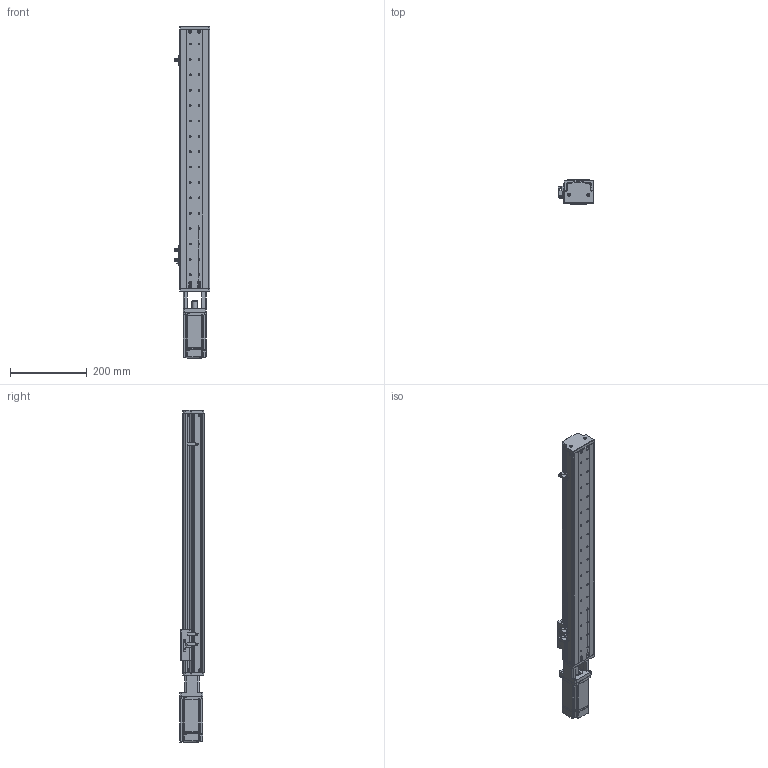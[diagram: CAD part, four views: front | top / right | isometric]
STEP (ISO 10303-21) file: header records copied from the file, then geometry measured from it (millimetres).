
FILE_DESCRIPTION (( 'STEP AP203' ), '1' );
FILE_NAME ('KSD75S-S520-MT-CM.STEP', '2019-10-18T07:32:48', ( '微软用户' ), ( '微软中国' ), 'SwSTEP 2.0', 'SolidWorks 2014', '' );
FILE_SCHEMA (( 'CONFIG_CONTROL_DESIGN' ));
Length unit declared in the file: millimetre
Products named in the file (12): U倰嫖萇EEㄜSX672; 覜茼え100遵圉猾敕; MGW15H賑寢520俴最 ; 520俴最; MHMD042G1CA_2_03; 75遵賑雄釱; KSD75S-S520-MT-CM; 75遵耀郪耜啣-520俴最; 75裔啣-520俴最; ヶ傷啣; 100遵鎮湛假蚾啣1 ; 綴傷啣 
Assembly tree (14 placements, depth 3):
  KSD75S-S520-MT-CM
    MGW15H賑寢520俴最 
      520俴最
    75遵賑雄釱
    75遵耀郪耜啣-520俴最  x2
    75裔啣-520俴最
    ヶ傷啣
    100遵鎮湛假蚾啣1 
    綴傷啣 
    U倰嫖萇EEㄜSX672  x3
    覜茼え100遵圉猾敕
    MHMD042G1CA_2_03
Bounding box: 91.7 x 63 x 863.5 mm (x, y, z)
Volume: 878606.3 mm3; surface area: 550571.7 mm2
Topology: 12 solids, 13 shells, 1436 faces, 4053 edges, 2643 vertices
Faces by surface type: cylinder 684, plane 605, cone 129, bspline 18
Entity records: 41678 total; most frequent: CARTESIAN_POINT 8747, DIRECTION 6853, ORIENTED_EDGE 6386, EDGE_CURVE 3264, AXIS2_PLACEMENT_3D 2528, VERTEX_POINT 2161, VECTOR 1797, LINE 1797
